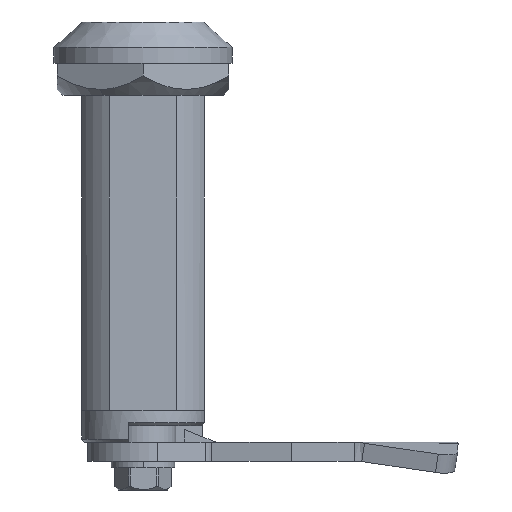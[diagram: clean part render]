
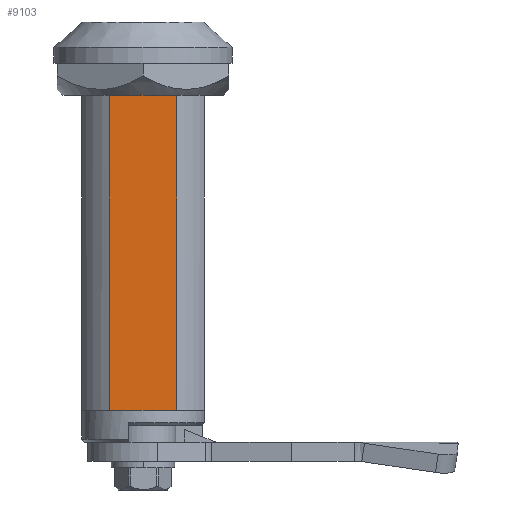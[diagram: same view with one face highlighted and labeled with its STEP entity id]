
A CAD part, front view. The second image highlights one B-rep face of the part: STEP entity #9103.
In plain terms, the highlighted planar face has unit normal (0, -1, 0).
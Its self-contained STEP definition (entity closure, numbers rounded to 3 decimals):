
#992 = CARTESIAN_POINT ( 'NONE',  ( 5.28, -9.65, 17. ) ) ;
#1016 = LINE ( 'NONE', #1070, #1069 ) ;
#1017 = CARTESIAN_POINT ( 'NONE',  ( -5.28, -9.65, 17. ) ) ;
#1068 = DIRECTION ( 'NONE',  ( -1., 0., 0. ) ) ;
#1069 = VECTOR ( 'NONE', #1068, 1000. ) ;
#1070 = CARTESIAN_POINT ( 'NONE',  ( 5.28, -9.65, 17. ) ) ;
#1387 = CARTESIAN_POINT ( 'NONE',  ( -5.28, -9.65, -36.5 ) ) ;
#1388 = CARTESIAN_POINT ( 'NONE',  ( 0., -9.65, -36.5 ) ) ;
#1394 = DIRECTION ( 'NONE',  ( 0., 0., 1. ) ) ;
#1395 = VECTOR ( 'NONE', #1394, 1000. ) ;
#1396 = CARTESIAN_POINT ( 'NONE',  ( 5.28, -9.65, 18. ) ) ;
#1397 = LINE ( 'NONE', #1396, #1395 ) ;
#1398 = DIRECTION ( 'NONE',  ( -1., 0., 0. ) ) ;
#1399 = VECTOR ( 'NONE', #1398, 1000. ) ;
#1400 = CARTESIAN_POINT ( 'NONE',  ( 0., -9.65, -36.5 ) ) ;
#1401 = LINE ( 'NONE', #1400, #1399 ) ;
#1435 = DIRECTION ( 'NONE',  ( 0., 0., 1. ) ) ;
#1436 = VECTOR ( 'NONE', #1435, 1000. ) ;
#1437 = CARTESIAN_POINT ( 'NONE',  ( -5.28, -9.65, 18. ) ) ;
#1438 = LINE ( 'NONE', #1437, #1436 ) ;
#1649 = FACE_OUTER_BOUND ( 'NONE', #9104, .T. ) ;
#1689 = DIRECTION ( 'NONE',  ( -1., 0., 0. ) ) ;
#1690 = VECTOR ( 'NONE', #1689, 1000. ) ;
#1691 = CARTESIAN_POINT ( 'NONE',  ( 0., -9.65, -36.5 ) ) ;
#1692 = LINE ( 'NONE', #1691, #1690 ) ;
#1693 = CARTESIAN_POINT ( 'NONE',  ( 5.28, -9.65, -36.5 ) ) ;
#1694 = DIRECTION ( 'NONE',  ( 0., 0., -1. ) ) ;
#1695 = DIRECTION ( 'NONE',  ( 0., -1., 0. ) ) ;
#1696 = CARTESIAN_POINT ( 'NONE',  ( 5.28, -9.65, 18. ) ) ;
#1697 = AXIS2_PLACEMENT_3D ( 'NONE', #1696, #1695, #1694 ) ;
#1698 = PLANE ( 'NONE',  #1697 ) ;
#8899 = VERTEX_POINT ( 'NONE', #992 ) ;
#8913 = VERTEX_POINT ( 'NONE', #1017 ) ;
#8914 = EDGE_CURVE ( 'NONE', #8899, #8913, #1016, .T. ) ;
#9031 = EDGE_CURVE ( 'NONE', #9036, #9042, #1401, .T. ) ;
#9032 = EDGE_CURVE ( 'NONE', #9106, #8899, #1397, .T. ) ;
#9035 = ORIENTED_EDGE ( 'NONE', *, *, #8914, .T. ) ;
#9036 = VERTEX_POINT ( 'NONE', #1388 ) ;
#9039 = ORIENTED_EDGE ( 'NONE', *, *, #9032, .T. ) ;
#9040 = ORIENTED_EDGE ( 'NONE', *, *, #9107, .F. ) ;
#9042 = VERTEX_POINT ( 'NONE', #1387 ) ;
#9044 = ORIENTED_EDGE ( 'NONE', *, *, #9045, .F. ) ;
#9045 = EDGE_CURVE ( 'NONE', #9042, #8913, #1438, .T. ) ;
#9103 = ADVANCED_FACE ( 'NONE', ( #1649 ), #1698, .T. ) ;
#9104 = EDGE_LOOP ( 'NONE', ( #9039, #9035, #9044, #9105, #9040 ) ) ;
#9105 = ORIENTED_EDGE ( 'NONE', *, *, #9031, .F. ) ;
#9106 = VERTEX_POINT ( 'NONE', #1693 ) ;
#9107 = EDGE_CURVE ( 'NONE', #9106, #9036, #1692, .T. ) ;
